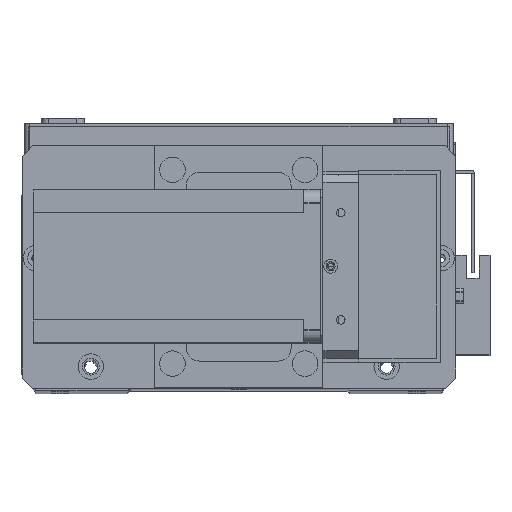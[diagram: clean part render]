
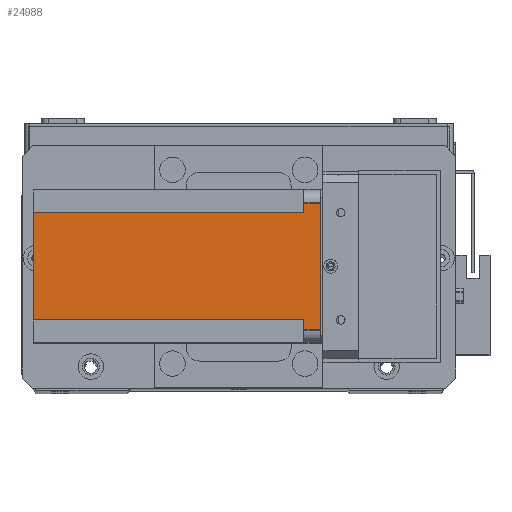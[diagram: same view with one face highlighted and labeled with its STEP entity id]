
A CAD part, top view. The second image highlights one B-rep face of the part: STEP entity #24988.
In plain terms, the highlighted planar face has unit normal (0, 0, 1) as drawn and (-1, 0, 0) by its records, which use the part's own axes.
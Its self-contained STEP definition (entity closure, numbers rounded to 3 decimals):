
#1025 = EDGE_CURVE ( 'NONE', #16694, #6352, #14186, .T. ) ;
#1055 = ORIENTED_EDGE ( 'NONE', *, *, #2143, .T. ) ;
#1741 = CARTESIAN_POINT ( 'NONE',  ( 0., 0., -6.5 ) ) ;
#1977 = DIRECTION ( 'NONE',  ( 0., 0., -1. ) ) ;
#2044 = VERTEX_POINT ( 'NONE', #12948 ) ;
#2143 = EDGE_CURVE ( 'NONE', #16694, #9434, #22011, .T. ) ;
#2225 = CARTESIAN_POINT ( 'NONE',  ( 0., 9., -112.5 ) ) ;
#2487 = CARTESIAN_POINT ( 'NONE',  ( 0., 51., -6.5 ) ) ;
#2654 = DIRECTION ( 'NONE',  ( 0., 1., 0. ) ) ;
#2689 = VERTEX_POINT ( 'NONE', #16445 ) ;
#3600 = VECTOR ( 'NONE', #1977, 1000. ) ;
#3894 = DIRECTION ( 'NONE',  ( -1., 0., 0. ) ) ;
#4842 = CARTESIAN_POINT ( 'NONE',  ( 0., 5., -6.5 ) ) ;
#5509 = DIRECTION ( 'NONE',  ( 0., -1., 0. ) ) ;
#5950 = VERTEX_POINT ( 'NONE', #4842 ) ;
#6352 = VERTEX_POINT ( 'NONE', #2487 ) ;
#8364 = VECTOR ( 'NONE', #14761, 1000. ) ;
#8381 = ORIENTED_EDGE ( 'NONE', *, *, #12335, .F. ) ;
#8437 = FACE_OUTER_BOUND ( 'NONE', #20314, .T. ) ;
#8720 = CARTESIAN_POINT ( 'NONE',  ( 0., 0., -112.5 ) ) ;
#9434 = VERTEX_POINT ( 'NONE', #23278 ) ;
#10839 = LINE ( 'NONE', #2225, #3600 ) ;
#12335 = EDGE_CURVE ( 'NONE', #5950, #2044, #17466, .T. ) ;
#12948 = CARTESIAN_POINT ( 'NONE',  ( 0., 9., -6.5 ) ) ;
#12987 = ORIENTED_EDGE ( 'NONE', *, *, #27129, .T. ) ;
#13284 = EDGE_CURVE ( 'NONE', #14641, #20451, #28003, .T. ) ;
#13504 = PLANE ( 'NONE',  #15292 ) ;
#13872 = VECTOR ( 'NONE', #14508, 1000. ) ;
#13976 = CARTESIAN_POINT ( 'NONE',  ( 0., 51., -112.5 ) ) ;
#14186 = LINE ( 'NONE', #16491, #13872 ) ;
#14508 = DIRECTION ( 'NONE',  ( 0., 0., 1. ) ) ;
#14641 = VERTEX_POINT ( 'NONE', #19233 ) ;
#14761 = DIRECTION ( 'NONE',  ( 0., 1., 0. ) ) ;
#14824 = CARTESIAN_POINT ( 'NONE',  ( 0., 60., -6.5 ) ) ;
#14857 = VECTOR ( 'NONE', #20813, 1000. ) ;
#14901 = EDGE_CURVE ( 'NONE', #2044, #9434, #10839, .T. ) ;
#15292 = AXIS2_PLACEMENT_3D ( 'NONE', #8720, #3894, #20413 ) ;
#15620 = LINE ( 'NONE', #20264, #27333 ) ;
#16445 = CARTESIAN_POINT ( 'NONE',  ( 0., 5., 0. ) ) ;
#16491 = CARTESIAN_POINT ( 'NONE',  ( 0., 51., -112.5 ) ) ;
#16529 = CARTESIAN_POINT ( 'NONE',  ( 0., 55., -112.5 ) ) ;
#16694 = VERTEX_POINT ( 'NONE', #13976 ) ;
#17466 = LINE ( 'NONE', #1741, #21526 ) ;
#18101 = EDGE_CURVE ( 'NONE', #6352, #20451, #27038, .T. ) ;
#18333 = VECTOR ( 'NONE', #5509, 1000. ) ;
#19233 = CARTESIAN_POINT ( 'NONE',  ( 0., 55., 0. ) ) ;
#19585 = CARTESIAN_POINT ( 'NONE',  ( 0., 0., 0. ) ) ;
#20234 = ORIENTED_EDGE ( 'NONE', *, *, #1025, .F. ) ;
#20264 = CARTESIAN_POINT ( 'NONE',  ( 0., 5., -112.5 ) ) ;
#20314 = EDGE_LOOP ( 'NONE', ( #8381, #12987, #29868, #30404, #24160, #20234, #1055, #21694 ) ) ;
#20413 = DIRECTION ( 'NONE',  ( 0., -1., 0. ) ) ;
#20451 = VERTEX_POINT ( 'NONE', #21056 ) ;
#20813 = DIRECTION ( 'NONE',  ( 0., 0., -1. ) ) ;
#21056 = CARTESIAN_POINT ( 'NONE',  ( 0., 55., -6.5 ) ) ;
#21526 = VECTOR ( 'NONE', #2654, 1000. ) ;
#21694 = ORIENTED_EDGE ( 'NONE', *, *, #14901, .F. ) ;
#21988 = VECTOR ( 'NONE', #29077, 1000. ) ;
#22011 = LINE ( 'NONE', #27157, #21988 ) ;
#22433 = EDGE_CURVE ( 'NONE', #14641, #2689, #30146, .T. ) ;
#23278 = CARTESIAN_POINT ( 'NONE',  ( 0., 9., -112.5 ) ) ;
#24160 = ORIENTED_EDGE ( 'NONE', *, *, #18101, .F. ) ;
#24988 = ADVANCED_FACE ( 'NONE', ( #8437 ), #13504, .T. ) ;
#27038 = LINE ( 'NONE', #14824, #8364 ) ;
#27129 = EDGE_CURVE ( 'NONE', #5950, #2689, #15620, .T. ) ;
#27157 = CARTESIAN_POINT ( 'NONE',  ( 0., 0., -112.5 ) ) ;
#27333 = VECTOR ( 'NONE', #27403, 1000. ) ;
#27403 = DIRECTION ( 'NONE',  ( 0., 0., 1. ) ) ;
#28003 = LINE ( 'NONE', #16529, #14857 ) ;
#29077 = DIRECTION ( 'NONE',  ( 0., -1., 0. ) ) ;
#29868 = ORIENTED_EDGE ( 'NONE', *, *, #22433, .F. ) ;
#30146 = LINE ( 'NONE', #19585, #18333 ) ;
#30404 = ORIENTED_EDGE ( 'NONE', *, *, #13284, .T. ) ;
